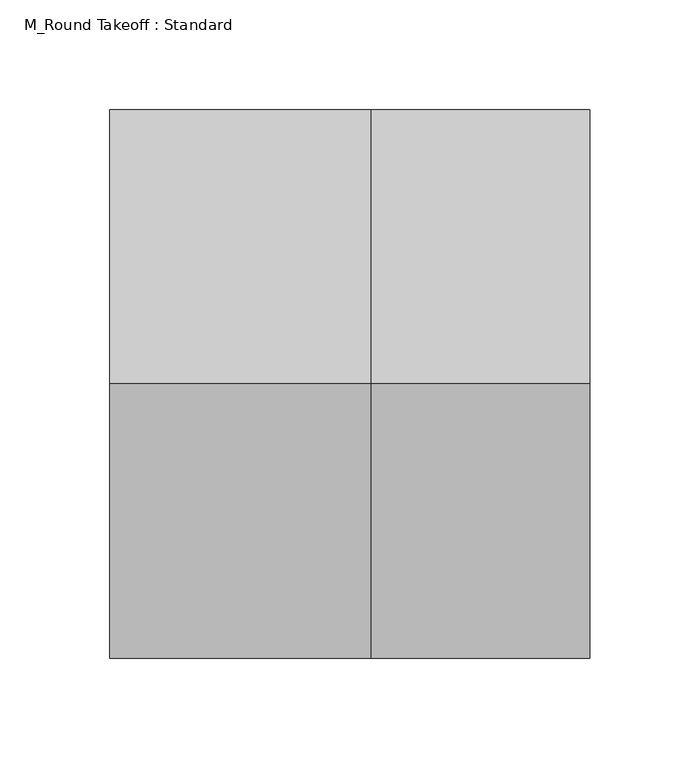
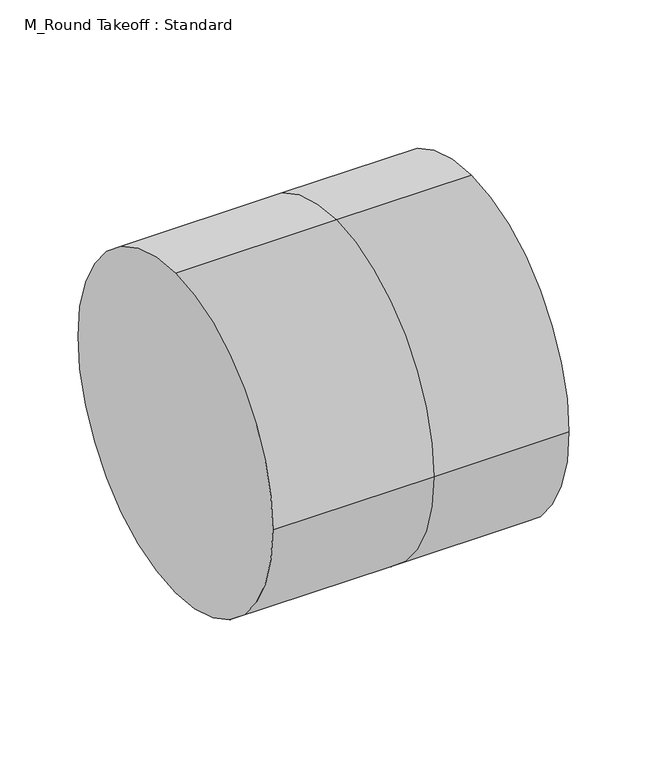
"""IFC4 building model written with IfcOpenShell, lengths in millimetres: duct fitting geometry, M_Round Takeoff : Standard."""

import ifcopenshell
import ifcopenshell.guid

model = None  # the IFC model being written
_history = None  # IfcOwnerHistory: only IFC2X3 demands one
_inside = {}  # id of a spatial element -> (the spatial element, [elements in it])
_under = {}  # id of a project, library or spatial element -> (it, [spatial elements below it])
_declared = {}  # id of a project -> (the project, [libraries it declares])
_typed = {}  # id of a type object -> (the type object, [elements of that type])
_made_of = {}  # id of a material, layer set ... -> (it, [elements and type objects made of it])


def new_model(schema):
    """Start an empty IFC model of exactly this schema.

    Asked for "IFC4X3", IfcOpenShell would pick the latest addendum, in which some entities
    have other attributes; the version numbers below select the first issue.
    IFC2X3 requires an IfcOwnerHistory on every rooted entity: one is made here for all.
    """
    global model, _history
    if schema == "IFC4X3":
        model = ifcopenshell.file(schema_version=(4, 3, 0, 0))
    else:
        model = ifcopenshell.file(schema=schema)
    _inside.clear()
    _under.clear()
    _declared.clear()
    _typed.clear()
    _made_of.clear()
    _history = None
    if model.schema == "IFC2X3":
        org = make("IfcOrganization", Name="unknown")
        user = make(
            "IfcPersonAndOrganization",
            ThePerson=make("IfcPerson", FamilyName="unknown"),
            TheOrganization=org,
        )
        app = make(
            "IfcApplication",
            ApplicationDeveloper=org,
            Version="unknown",
            ApplicationFullName="unknown",
            ApplicationIdentifier="unknown",
        )
        _history = make(
            "IfcOwnerHistory",
            OwningUser=user,
            OwningApplication=app,
            ChangeAction="ADDED",
            CreationDate=0,
        )
    return model


def make(cls, **values):
    """One entity of the class cls with the attributes given. An attribute that is None is left unset."""
    return model.create_entity(
        cls, **{name: value for name, value in values.items() if value is not None}
    )


def rooted(cls, **values):
    """An entity with a GlobalId (a new one), such as an element, a storey or a relation."""
    return make(cls, GlobalId=ifcopenshell.guid.new(), OwnerHistory=_history, **values)


def si_unit(unit_type, name, prefix=None):
    """IfcSIUnit, for example si_unit("LENGTHUNIT", "METRE", prefix="MILLI")."""
    return make("IfcSIUnit", UnitType=unit_type, Prefix=prefix, Name=name)


def assignment(units):
    """IfcUnitAssignment: the units of a project."""
    return None if units is None else make("IfcUnitAssignment", Units=units)


def point(xyz):
    """IfcCartesianPoint."""
    return None if xyz is None else make("IfcCartesianPoint", Coordinates=xyz)


def direction(xyz):
    """IfcDirection."""
    return None if xyz is None else make("IfcDirection", DirectionRatios=xyz)


def frame(location, z_axis=None, x_axis=None):
    """IfcAxis2Placement3D, a coordinate frame: its origin and axes. An axis left out is left unset."""
    return make(
        "IfcAxis2Placement3D",
        Location=point(location),
        Axis=direction(z_axis),
        RefDirection=direction(x_axis),
    )


def origin():
    """The frame at (0, 0, 0) with its axes left unset."""
    return frame((0.0, 0.0, 0.0))


def place(relative_to, where):
    """IfcLocalPlacement: puts the frame where relative to a parent placement (None: the world)."""
    return make(
        "IfcLocalPlacement", PlacementRelTo=relative_to, RelativePlacement=where
    )


def context(
    kind, dimensions, precision=None, world=None, true_north=None, identifier=None
):
    """IfcGeometricRepresentationContext, for example the 3D "Model" context."""
    return make(
        "IfcGeometricRepresentationContext",
        ContextIdentifier=identifier,
        ContextType=kind,
        CoordinateSpaceDimension=dimensions,
        Precision=precision,
        WorldCoordinateSystem=world,
        TrueNorth=true_north,
    )


def project(units=None, contexts=None):
    """IfcProject with its units and contexts."""
    return rooted(
        "IfcProject",
        Name="project",
        RepresentationContexts=contexts,
        UnitsInContext=assignment(units),
    )


def spatial(cls, under=None, at=None, **own):
    """A site, building, storey or space (cls), placed at a placement, below another one or the project."""
    s = rooted(cls, ObjectPlacement=at, **own)
    if under is not None:
        _under.setdefault(under.id(), (under, []))[1].append(s)
    return s


def circle_curve(where, radius):
    """IfcCircle in the frame where."""
    return make("IfcCircle", Position=where, Radius=radius)


def shape(context_of_items, identifier, shape_type, items):
    """IfcShapeRepresentation: the items that make up one representation, for example the "Body"."""
    return make(
        "IfcShapeRepresentation",
        ContextOfItems=context_of_items,
        RepresentationIdentifier=identifier,
        RepresentationType=shape_type,
        Items=items,
    )


def source(mapping_origin, context_of_items, identifier, shape_type, items):
    """IfcRepresentationMap: a shape defined once, which mapped items show again and again."""
    return make(
        "IfcRepresentationMap",
        MappingOrigin=mapping_origin,
        MappedRepresentation=shape(context_of_items, identifier, shape_type, items),
    )


def transform(
    local_origin,
    x_axis=None,
    y_axis=None,
    z_axis=None,
    scale=None,
    scale2=None,
    scale3=None,
    uniform=True,
):
    """IfcCartesianTransformationOperator3D, or its non-uniform kind. x_axis, y_axis, z_axis: its Axis1, 2, 3."""
    if uniform:
        return make(
            "IfcCartesianTransformationOperator3D",
            Axis1=direction(x_axis),
            Axis2=direction(y_axis),
            LocalOrigin=point(local_origin),
            Scale=scale,
            Axis3=direction(z_axis),
        )
    return make(
        "IfcCartesianTransformationOperator3DnonUniform",
        Axis1=direction(x_axis),
        Axis2=direction(y_axis),
        LocalOrigin=point(local_origin),
        Scale=scale,
        Axis3=direction(z_axis),
        Scale2=scale2,
        Scale3=scale3,
    )


def mapped(mapping_source, mapping_target):
    """IfcMappedItem: shows the shape of a source again, moved by a transform."""
    return make(
        "IfcMappedItem", MappingSource=mapping_source, MappingTarget=mapping_target
    )


def made_of(thing, what):
    """Note that an element or type object is made of a material, layer set ...; save() writes the relation."""
    if what is not None:
        _made_of.setdefault(what.id(), (what, []))[1].append(thing)
    return thing


def element(
    cls,
    number,
    at=None,
    inside=None,
    cuts=None,
    type_object=None,
    material=None,
    context=None,
    identifier="Body",
    shape_type=None,
    held_by="IfcProductDefinitionShape",
    body=None,
    shapes=None,
    **own,
):
    """One element of the class cls, such as IfcWall. Its Tag is "e" and its number.

    at: its placement. inside: the storey or other place that contains it. cuts: it is an
    opening in that element (IfcRelVoidsElement). A single representation is given by context,
    identifier, shape_type and body (its items); several are given by shapes. held_by: the class
    of the entity that holds the representations. save() writes the other relations.
    """
    e = rooted(cls, Tag="e%d" % number, ObjectPlacement=at, **own)
    if body is not None:
        shapes = [shape(context, identifier, shape_type, body)]
    if shapes is not None:
        e.Representation = make(held_by, Representations=shapes)
    if inside is not None:
        _inside.setdefault(inside.id(), (inside, []))[1].append(e)
    if cuts is not None:
        rooted(
            "IfcRelVoidsElement", RelatingBuildingElement=cuts, RelatedOpeningElement=e
        )
    if type_object is not None:
        _typed.setdefault(type_object.id(), (type_object, []))[1].append(e)
    return made_of(e, material)


def aggregate(whole, parts):
    """IfcRelAggregates: a whole, such as a stair, and the parts it consists of."""
    return rooted("IfcRelAggregates", RelatingObject=whole, RelatedObjects=parts)


def save(model, path):
    """Write the relations noted so far, then the file.

    IfcRelAggregates (storeys below a building ...), IfcRelContainedInSpatialStructure (elements
    in a storey), IfcRelDefinesByType, IfcRelAssociatesMaterial and IfcRelDeclares: one each for
    every whole, place, type object, material and project.
    """
    for whole, parts in _under.values():
        aggregate(whole, parts)
    for where, things in _inside.values():
        rooted(
            "IfcRelContainedInSpatialStructure",
            RelatedElements=things,
            RelatingStructure=where,
        )
    for kind, things in _typed.values():
        rooted("IfcRelDefinesByType", RelatedObjects=things, RelatingType=kind)
    for what, things in _made_of.values():
        rooted("IfcRelAssociatesMaterial", RelatedObjects=things, RelatingMaterial=what)
    for by, libraries in _declared.values():
        rooted("IfcRelDeclares", RelatingContext=by, RelatedDefinitions=libraries)
    model.write(path)


def plane_surface(at):
    """IfcPlane: the flat surface through the origin of the frame at, square to its z axis."""
    return make("IfcPlane", Position=at)


def cylinder_surface(at, radius):
    """IfcCylindricalSurface: all points at the distance radius from the z axis of the frame at."""
    return make("IfcCylindricalSurface", Position=at, Radius=radius)


def advanced_brep(points, edges, surfaces, faces):
    """IfcAdvancedBrep: a solid bounded by faces that lie on surfaces and meet in shared edges.

    An edge is (start, end): straight between two places in points (the first is 0);
    or (start, end, curve); or (start, end, curve, False) where it runs against its curve.
    A face is (place in surfaces, loops), or (place, loops, False) where it looks against
    its surface's normal. A loop lists edges by number (the first is 1), with a minus sign
    where the edge is run from its end to its start. The first loop is the outer one.
    """
    corners = [point(p) for p in points]
    vertices = [make("IfcVertexPoint", VertexGeometry=c) for c in corners]
    made = []
    for start, end, *more in edges:
        made.append(
            make(
                "IfcEdgeCurve",
                EdgeStart=vertices[start],
                EdgeEnd=vertices[end],
                EdgeGeometry=more[0] if more else make("IfcPolyline", Points=[corners[start], corners[end]]),
                SameSense=more[1] if len(more) > 1 else True,
            )
        )
    hull = []
    for where, loops, *sense in faces:
        bounds = []
        for j, loop in enumerate(loops):
            ring = [make("IfcOrientedEdge", EdgeElement=made[abs(k) - 1], Orientation=k > 0) for k in loop]
            bounds.append(
                make(
                    "IfcFaceOuterBound" if j == 0 else "IfcFaceBound",
                    Bound=make("IfcEdgeLoop", EdgeList=ring),
                    Orientation=True,
                )
            )
        hull.append(make("IfcAdvancedFace", Bounds=bounds, FaceSurface=surfaces[where], SameSense=sense[0] if sense else True))
    return make("IfcAdvancedBrep", Outer=make("IfcClosedShell", CfsFaces=hull))


def m_round_takeoff_standard_37f376f6(model_context):
    return source(origin(), model_context, "Body", "AdvancedBrep", [
        advanced_brep(
        [(-118.904, 0.0, 125.0), (-118.904, 125.0, 0.0), (-118.904, 0.0, -125.0), (-118.904, -125.0, 0.0), (0.0, -125.0, 0.0), (0.0, 0.0, 125.0), (0.0, 0.0, -125.0), (0.0, 125.0, 0.0), (100.0, 0.0, 125.0), (100.0, -125.0, 0.0), (100.0, 0.0, -125.0), (100.0, 125.0, 0.0)],
        [
            (0, 1, circle_curve(frame((-118.904, 0.0, 0.0), z_axis=(-1.0, 0.0, 0.0), x_axis=(0.0, -1.0, 0.0)), 125.0)),
            (1, 2, circle_curve(frame((-118.904, 0.0, 0.0), z_axis=(-1.0, 0.0, 0.0), x_axis=(0.0, -1.0, 0.0)), 125.0)),
            (2, 3, circle_curve(frame((-118.904, 0.0, 0.0), z_axis=(-1.0, 0.0, 0.0), x_axis=(0.0, -1.0, 0.0)), 125.0)),
            (3, 0, circle_curve(frame((-118.904, 0.0, 0.0), z_axis=(-1.0, 0.0, 0.0), x_axis=(0.0, -1.0, 0.0)), 125.0)),
            (3, 4),
            (4, 5, circle_curve(frame((0.0, 0.0, 0.0), z_axis=(-1.0, 0.0, 0.0), x_axis=(0.0, -1.0, 0.0)), 125.0)),
            (5, 0),
            (2, 6),
            (6, 4, circle_curve(frame((0.0, 0.0, 0.0), z_axis=(-1.0, 0.0, 0.0), x_axis=(0.0, -1.0, 0.0)), 125.0)),
            (1, 7),
            (7, 6, circle_curve(frame((0.0, 0.0, 0.0), z_axis=(-1.0, 0.0, 0.0), x_axis=(0.0, -1.0, 0.0)), 125.0)),
            (5, 7, circle_curve(frame((0.0, 0.0, 0.0), z_axis=(-1.0, 0.0, 0.0), x_axis=(0.0, -1.0, 0.0)), 125.0)),
            (8, 9, circle_curve(frame((100.0, 0.0, 0.0), z_axis=(1.0, 0.0, 0.0), x_axis=(0.0, -1.0, 0.0)), 125.0)),
            (9, 10, circle_curve(frame((100.0, 0.0, 0.0), z_axis=(1.0, 0.0, 0.0), x_axis=(0.0, -1.0, 0.0)), 125.0)),
            (10, 11, circle_curve(frame((100.0, 0.0, 0.0), z_axis=(1.0, 0.0, 0.0), x_axis=(0.0, -1.0, 0.0)), 125.0)),
            (11, 8, circle_curve(frame((100.0, 0.0, 0.0), z_axis=(1.0, 0.0, 0.0), x_axis=(0.0, -1.0, 0.0)), 125.0)),
            (8, 5),
            (4, 9),
            (6, 10),
            (7, 11),
        ],
        [
            plane_surface(frame((-118.904, 0.0, 0.0), z_axis=(-1.0, 0.0, 0.0), x_axis=(0.0, 0.0, 1.0))),
            cylinder_surface(frame((-118.904, 0.0, 0.0), z_axis=(-1.0, 0.0, 0.0), x_axis=(0.0, -1.0, 0.0)), 125.0),
            plane_surface(frame((100.0, 0.0, 0.0), z_axis=(1.0, 0.0, 0.0), x_axis=(0.0, 0.0, 1.0))),
            cylinder_surface(frame((0.0, 0.0, 0.0), z_axis=(-1.0, 0.0, 0.0), x_axis=(0.0, -1.0, 0.0)), 125.0),
        ],
        [
            (0, [[1, 2, 3, 4]]),
            (1, [[5, 6, 7, -4]]),
            (1, [[8, 9, -5, -3]]),
            (1, [[10, 11, -8, -2]]),
            (1, [[-7, 12, -10, -1]]),
            (2, [[13, 14, 15, 16]]),
            (3, [[17, -6, 18, -13]]),
            (3, [[-18, -9, 19, -14]]),
            (3, [[-19, -11, 20, -15]]),
            (3, [[-20, -12, -17, -16]]),
        ],
    ),
        advanced_brep(
        [(100.0, 0.0, 125.0), (100.0, -125.0, 0.0), (100.0, 0.0, -125.0), (100.0, 125.0, 0.0), (0.0, 0.0, 125.0), (0.0, -125.0, 0.0), (0.0, 0.0, -125.0), (0.0, 125.0, 0.0), (-118.904, 0.0, 125.0), (-118.904, 125.0, 0.0), (-118.904, 0.0, -125.0), (-118.904, -125.0, 0.0)],
        [
            (0, 1, circle_curve(frame((100.0, 0.0, 0.0), z_axis=(1.0, 0.0, 0.0), x_axis=(0.0, -1.0, 0.0)), 125.0)),
            (1, 2, circle_curve(frame((100.0, 0.0, 0.0), z_axis=(1.0, 0.0, 0.0), x_axis=(0.0, -1.0, 0.0)), 125.0)),
            (2, 3, circle_curve(frame((100.0, 0.0, 0.0), z_axis=(1.0, 0.0, 0.0), x_axis=(0.0, -1.0, 0.0)), 125.0)),
            (3, 0, circle_curve(frame((100.0, 0.0, 0.0), z_axis=(1.0, 0.0, 0.0), x_axis=(0.0, -1.0, 0.0)), 125.0)),
            (0, 4),
            (4, 5, circle_curve(frame((0.0, 0.0, 0.0), z_axis=(1.0, 0.0, 0.0), x_axis=(0.0, -1.0, 0.0)), 125.0)),
            (5, 1),
            (5, 6, circle_curve(frame((0.0, 0.0, 0.0), z_axis=(1.0, 0.0, 0.0), x_axis=(0.0, -1.0, 0.0)), 125.0)),
            (6, 2),
            (6, 7, circle_curve(frame((0.0, 0.0, 0.0), z_axis=(1.0, 0.0, 0.0), x_axis=(0.0, -1.0, 0.0)), 125.0)),
            (7, 3),
            (7, 4, circle_curve(frame((0.0, 0.0, 0.0), z_axis=(1.0, 0.0, 0.0), x_axis=(0.0, -1.0, 0.0)), 125.0)),
            (8, 9, circle_curve(frame((-118.904, 0.0, 0.0), z_axis=(-1.0, 0.0, 0.0), x_axis=(0.0, -1.0, 0.0)), 125.0)),
            (9, 10, circle_curve(frame((-118.904, 0.0, 0.0), z_axis=(-1.0, 0.0, 0.0), x_axis=(0.0, -1.0, 0.0)), 125.0)),
            (10, 11, circle_curve(frame((-118.904, 0.0, 0.0), z_axis=(-1.0, 0.0, 0.0), x_axis=(0.0, -1.0, 0.0)), 125.0)),
            (11, 8, circle_curve(frame((-118.904, 0.0, 0.0), z_axis=(-1.0, 0.0, 0.0), x_axis=(0.0, -1.0, 0.0)), 125.0)),
            (11, 5),
            (4, 8),
            (10, 6),
            (9, 7),
        ],
        [
            plane_surface(frame((100.0, 0.0, 0.0), z_axis=(1.0, 0.0, 0.0), x_axis=(0.0, 0.0, 1.0))),
            cylinder_surface(frame((0.0, 0.0, 0.0), z_axis=(-1.0, 0.0, 0.0), x_axis=(0.0, -1.0, 0.0)), 125.0),
            plane_surface(frame((-118.904, 0.0, 0.0), z_axis=(-1.0, 0.0, 0.0), x_axis=(0.0, 0.0, 1.0))),
            cylinder_surface(frame((-118.904, 0.0, 0.0), z_axis=(-1.0, 0.0, 0.0), x_axis=(0.0, -1.0, 0.0)), 125.0),
        ],
        [
            (0, [[1, 2, 3, 4]]),
            (1, [[5, 6, 7, -1]]),
            (1, [[-7, 8, 9, -2]]),
            (1, [[-9, 10, 11, -3]]),
            (1, [[-11, 12, -5, -4]]),
            (2, [[13, 14, 15, 16]]),
            (3, [[17, -6, 18, -16]]),
            (3, [[19, -8, -17, -15]]),
            (3, [[20, -10, -19, -14]]),
            (3, [[-18, -12, -20, -13]]),
        ],
    ),
        advanced_brep(
        [(-118.904, 0.0, 125.0), (-118.904, 125.0, 0.0), (-118.904, 0.0, -125.0), (-118.904, -125.0, 0.0), (0.0, -125.0, 0.0), (0.0, 0.0, 125.0), (0.0, 0.0, -125.0), (0.0, 125.0, 0.0), (100.0, 0.0, 125.0), (100.0, -125.0, 0.0), (100.0, 0.0, -125.0), (100.0, 125.0, 0.0)],
        [
            (0, 1, circle_curve(frame((-118.904, 0.0, 0.0), z_axis=(-1.0, 0.0, 0.0), x_axis=(0.0, -1.0, 0.0)), 125.0)),
            (1, 2, circle_curve(frame((-118.904, 0.0, 0.0), z_axis=(-1.0, 0.0, 0.0), x_axis=(0.0, -1.0, 0.0)), 125.0)),
            (2, 3, circle_curve(frame((-118.904, 0.0, 0.0), z_axis=(-1.0, 0.0, 0.0), x_axis=(0.0, -1.0, 0.0)), 125.0)),
            (3, 0, circle_curve(frame((-118.904, 0.0, 0.0), z_axis=(-1.0, 0.0, 0.0), x_axis=(0.0, -1.0, 0.0)), 125.0)),
            (3, 4),
            (4, 5, circle_curve(frame((0.0, 0.0, 0.0), z_axis=(-1.0, 0.0, 0.0), x_axis=(0.0, -1.0, 0.0)), 125.0)),
            (5, 0),
            (2, 6),
            (6, 4, circle_curve(frame((0.0, 0.0, 0.0), z_axis=(-1.0, 0.0, 0.0), x_axis=(0.0, -1.0, 0.0)), 125.0)),
            (1, 7),
            (7, 6, circle_curve(frame((0.0, 0.0, 0.0), z_axis=(-1.0, 0.0, 0.0), x_axis=(0.0, -1.0, 0.0)), 125.0)),
            (5, 7, circle_curve(frame((0.0, 0.0, 0.0), z_axis=(-1.0, 0.0, 0.0), x_axis=(0.0, -1.0, 0.0)), 125.0)),
            (8, 9, circle_curve(frame((100.0, 0.0, 0.0), z_axis=(1.0, 0.0, 0.0), x_axis=(0.0, -1.0, 0.0)), 125.0)),
            (9, 10, circle_curve(frame((100.0, 0.0, 0.0), z_axis=(1.0, 0.0, 0.0), x_axis=(0.0, -1.0, 0.0)), 125.0)),
            (10, 11, circle_curve(frame((100.0, 0.0, 0.0), z_axis=(1.0, 0.0, 0.0), x_axis=(0.0, -1.0, 0.0)), 125.0)),
            (11, 8, circle_curve(frame((100.0, 0.0, 0.0), z_axis=(1.0, 0.0, 0.0), x_axis=(0.0, -1.0, 0.0)), 125.0)),
            (8, 5),
            (4, 9),
            (6, 10),
            (7, 11),
        ],
        [
            plane_surface(frame((-118.904, 0.0, 0.0), z_axis=(-1.0, 0.0, 0.0), x_axis=(0.0, 0.0, 1.0))),
            cylinder_surface(frame((-118.904, 0.0, 0.0), z_axis=(-1.0, 0.0, 0.0), x_axis=(0.0, -1.0, 0.0)), 125.0),
            plane_surface(frame((100.0, 0.0, 0.0), z_axis=(1.0, 0.0, 0.0), x_axis=(0.0, 0.0, 1.0))),
            cylinder_surface(frame((0.0, 0.0, 0.0), z_axis=(-1.0, 0.0, 0.0), x_axis=(0.0, -1.0, 0.0)), 125.0),
        ],
        [
            (0, [[1, 2, 3, 4]]),
            (1, [[5, 6, 7, -4]]),
            (1, [[8, 9, -5, -3]]),
            (1, [[10, 11, -8, -2]]),
            (1, [[-7, 12, -10, -1]]),
            (2, [[13, 14, 15, 16]]),
            (3, [[17, -6, 18, -13]]),
            (3, [[-18, -9, 19, -14]]),
            (3, [[-19, -11, 20, -15]]),
            (3, [[-20, -12, -17, -16]]),
        ],
    ),
    ])


if __name__ == "__main__":
    model = new_model("IFC4")
    model_context = context("Model", 3, world=origin())
    ifc_project = project(units=[si_unit("LENGTHUNIT", "METRE", prefix="MILLI")], contexts=[model_context])
    site = spatial("IfcSite", under=ifc_project)
    building = spatial("IfcBuilding", under=site)
    placement = place(None, origin())
    m_round_takeoff_standard_shape = m_round_takeoff_standard_37f376f6(model_context)
    element("IfcDuctFitting", 1, ObjectType="M_Round Takeoff : Standard", at=placement, inside=building, context=model_context, shape_type="MappedRepresentation", body=[
        mapped(m_round_takeoff_standard_shape, transform((0.0, 0.0, 0.0), x_axis=(1.0, 0.0, 0.0), y_axis=(0.0, 1.0, 0.0), z_axis=(0.0, 0.0, 1.0))),
    ])
    save(model, "model.ifc")
